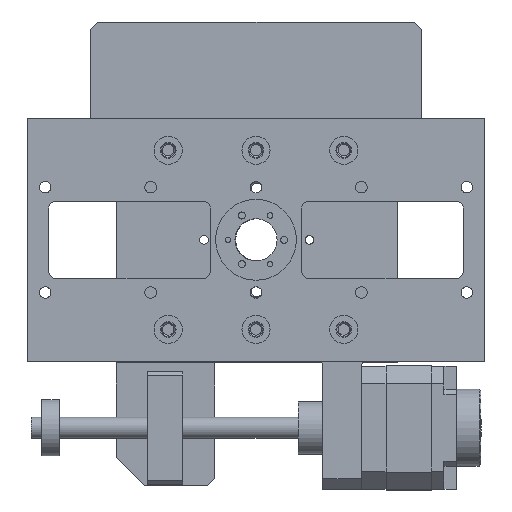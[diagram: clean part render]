
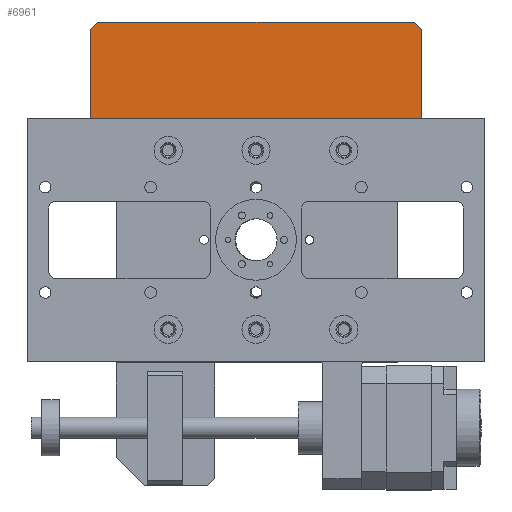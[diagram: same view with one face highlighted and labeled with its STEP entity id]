
A CAD part, front view. The second image highlights one B-rep face of the part: STEP entity #6961.
In plain terms, the highlighted planar face has unit normal (0, -1, 0).
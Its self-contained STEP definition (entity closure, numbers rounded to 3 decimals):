
#391 = FACE_OUTER_BOUND ( 'NONE', #17529, .T. ) ;
#892 = CARTESIAN_POINT ( 'NONE',  ( 2., 0., 27.5 ) ) ;
#1422 = VECTOR ( 'NONE', #13646, 1000. ) ;
#2010 = EDGE_CURVE ( 'NONE', #2348, #16318, #6152, .T. ) ;
#2149 = CARTESIAN_POINT ( 'NONE',  ( 0., 0., 27.5 ) ) ;
#2230 = CARTESIAN_POINT ( 'NONE',  ( 0., 0., 25.5 ) ) ;
#2298 = DIRECTION ( 'NONE',  ( -0.707, 0., -0.707 ) ) ;
#2348 = VERTEX_POINT ( 'NONE', #4907 ) ;
#2440 = ORIENTED_EDGE ( 'NONE', *, *, #7317, .T. ) ;
#2448 = DIRECTION ( 'NONE',  ( 0., 0., -1. ) ) ;
#2520 = ORIENTED_EDGE ( 'NONE', *, *, #3283, .T. ) ;
#2798 = VERTEX_POINT ( 'NONE', #4973 ) ;
#3223 = VECTOR ( 'NONE', #7910, 1000. ) ;
#3283 = EDGE_CURVE ( 'NONE', #2348, #9738, #7990, .T. ) ;
#3837 = LINE ( 'NONE', #15250, #13648 ) ;
#4670 = DIRECTION ( 'NONE',  ( 1., 0., 0. ) ) ;
#4907 = CARTESIAN_POINT ( 'NONE',  ( 2., 0., 27.5 ) ) ;
#4973 = CARTESIAN_POINT ( 'NONE',  ( 94., 0., 0. ) ) ;
#5019 = LINE ( 'NONE', #17770, #3223 ) ;
#5784 = LINE ( 'NONE', #9727, #15003 ) ;
#5895 = DIRECTION ( 'NONE',  ( 0., 0., 1. ) ) ;
#6152 = LINE ( 'NONE', #2149, #14002 ) ;
#6714 = CARTESIAN_POINT ( 'NONE',  ( 92., 0., 27.5 ) ) ;
#6961 = ADVANCED_FACE ( 'NONE', ( #391 ), #10302, .F. ) ;
#7317 = EDGE_CURVE ( 'NONE', #14947, #16318, #5784, .T. ) ;
#7392 = DIRECTION ( 'NONE',  ( 0., 1., 0. ) ) ;
#7910 = DIRECTION ( 'NONE',  ( 1., 0., 0. ) ) ;
#7990 = LINE ( 'NONE', #892, #10580 ) ;
#8460 = EDGE_CURVE ( 'NONE', #9738, #15435, #17611, .T. ) ;
#9727 = CARTESIAN_POINT ( 'NONE',  ( 92., 0., 27.5 ) ) ;
#9738 = VERTEX_POINT ( 'NONE', #2230 ) ;
#10302 = PLANE ( 'NONE',  #11406 ) ;
#10482 = CARTESIAN_POINT ( 'NONE',  ( 0., 0., 27.5 ) ) ;
#10580 = VECTOR ( 'NONE', #2298, 1000. ) ;
#10643 = ORIENTED_EDGE ( 'NONE', *, *, #8460, .T. ) ;
#11406 = AXIS2_PLACEMENT_3D ( 'NONE', #16009, #7392, #5895 ) ;
#12594 = ORIENTED_EDGE ( 'NONE', *, *, #14261, .F. ) ;
#13646 = DIRECTION ( 'NONE',  ( 0., 0., -1. ) ) ;
#13648 = VECTOR ( 'NONE', #2448, 1000. ) ;
#14002 = VECTOR ( 'NONE', #4670, 1000. ) ;
#14261 = EDGE_CURVE ( 'NONE', #14947, #2798, #3837, .T. ) ;
#14947 = VERTEX_POINT ( 'NONE', #17672 ) ;
#15003 = VECTOR ( 'NONE', #15428, 1000. ) ;
#15040 = EDGE_CURVE ( 'NONE', #15435, #2798, #5019, .T. ) ;
#15250 = CARTESIAN_POINT ( 'NONE',  ( 94., 0., 27.5 ) ) ;
#15255 = CARTESIAN_POINT ( 'NONE',  ( 0., 0., 0. ) ) ;
#15428 = DIRECTION ( 'NONE',  ( -0.707, 0., 0.707 ) ) ;
#15435 = VERTEX_POINT ( 'NONE', #15255 ) ;
#15544 = ORIENTED_EDGE ( 'NONE', *, *, #2010, .F. ) ;
#16009 = CARTESIAN_POINT ( 'NONE',  ( 0., 0., 27.5 ) ) ;
#16318 = VERTEX_POINT ( 'NONE', #6714 ) ;
#16710 = ORIENTED_EDGE ( 'NONE', *, *, #15040, .T. ) ;
#17529 = EDGE_LOOP ( 'NONE', ( #12594, #2440, #15544, #2520, #10643, #16710 ) ) ;
#17611 = LINE ( 'NONE', #10482, #1422 ) ;
#17672 = CARTESIAN_POINT ( 'NONE',  ( 94., 0., 25.5 ) ) ;
#17770 = CARTESIAN_POINT ( 'NONE',  ( 0., 0., 0. ) ) ;
